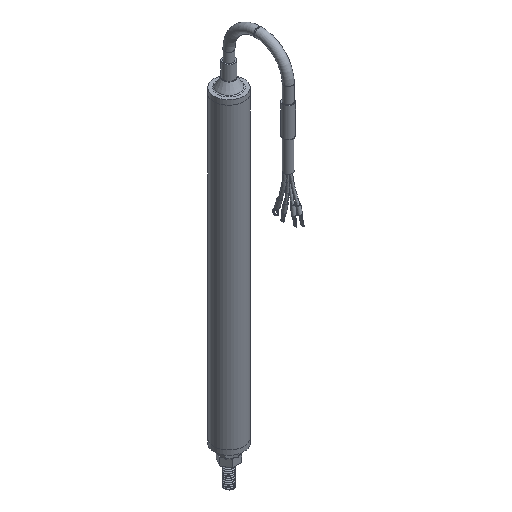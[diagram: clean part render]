
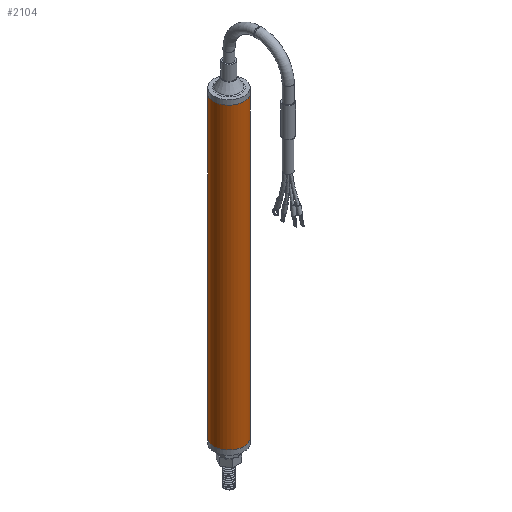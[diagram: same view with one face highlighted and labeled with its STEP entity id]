
A CAD part, isometric view. The second image highlights one B-rep face of the part: STEP entity #2104.
In plain terms, the highlighted cylindrical face has radius 6.35 mm (diameter 12.7 mm), a full revolution.
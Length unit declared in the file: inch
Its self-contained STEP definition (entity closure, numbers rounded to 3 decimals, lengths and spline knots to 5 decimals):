
#98=LINE('',#3305,#245);
#245=VECTOR('',#2707,0.25);
#391=CYLINDRICAL_SURFACE('',#2422,0.25);
#462=FACE_OUTER_BOUND('',#600,.T.);
#600=EDGE_LOOP('',(#1364,#1365,#1366,#1367,#1368));
#744=CIRCLE('',#2410,0.25);
#745=CIRCLE('',#2411,0.25);
#750=CIRCLE('',#2420,0.25);
#846=VERTEX_POINT('',#3282);
#847=VERTEX_POINT('',#3284);
#852=VERTEX_POINT('',#3300);
#1043=EDGE_CURVE('',#847,#846,#744,.T.);
#1044=EDGE_CURVE('',#846,#847,#745,.T.);
#1051=EDGE_CURVE('',#852,#852,#750,.T.);
#1052=EDGE_CURVE('',#852,#847,#98,.T.);
#1364=ORIENTED_EDGE('',*,*,#1051,.F.);
#1365=ORIENTED_EDGE('',*,*,#1052,.T.);
#1366=ORIENTED_EDGE('',*,*,#1043,.T.);
#1367=ORIENTED_EDGE('',*,*,#1044,.T.);
#1368=ORIENTED_EDGE('',*,*,#1052,.F.);
#2104=ADVANCED_FACE('',(#462),#391,.T.);
#2410=AXIS2_PLACEMENT_3D('',#3285,#2679,#2680);
#2411=AXIS2_PLACEMENT_3D('',#3286,#2681,#2682);
#2420=AXIS2_PLACEMENT_3D('',#3302,#2701,#2702);
#2422=AXIS2_PLACEMENT_3D('',#3304,#2705,#2706);
#2679=DIRECTION('center_axis',(0.,0.,-1.));
#2680=DIRECTION('ref_axis',(-1.,0.,0.));
#2681=DIRECTION('center_axis',(0.,0.,-1.));
#2682=DIRECTION('ref_axis',(-1.,0.,0.));
#2701=DIRECTION('center_axis',(0.,0.,-1.));
#2702=DIRECTION('ref_axis',(-1.,0.,0.));
#2705=DIRECTION('center_axis',(0.,0.,-1.));
#2706=DIRECTION('ref_axis',(-1.,0.,0.));
#2707=DIRECTION('',(0.,0.,1.));
#3282=CARTESIAN_POINT('',(0.,0.25,0.));
#3284=CARTESIAN_POINT('',(0.25,0.,0.));
#3285=CARTESIAN_POINT('Origin',(0.,0.,0.));
#3286=CARTESIAN_POINT('Origin',(0.,0.,0.));
#3300=CARTESIAN_POINT('',(0.25,0.,-4.96063));
#3302=CARTESIAN_POINT('Origin',(0.,0.,-4.96063));
#3304=CARTESIAN_POINT('Origin',(0.,0.,0.));
#3305=CARTESIAN_POINT('',(0.25,0.,0.));
